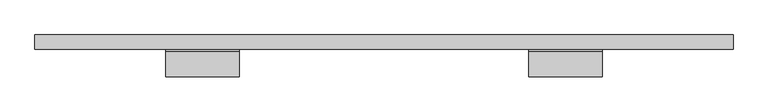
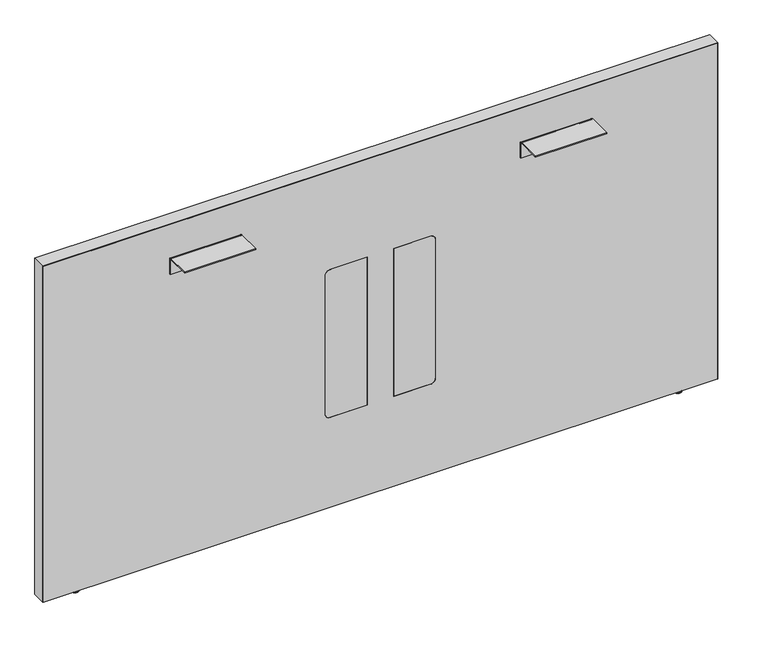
"""IFC4 building model written with IfcOpenShell, lengths in millimetres: furniture geometry, Steelcase - Answer Solution - Boundary Screen - Straight - Spanning : 30H x 57W."""

from ifc_helpers import new_model, si_unit, point, frame, frame_2d, origin, place, context, project, spatial, polyline, circle_curve, ellipse_curve, trimmed, segment, composite_curve, outline, extrude, source, transform, mapped, element, save
from ifc_brep_helpers import plane_surface, cylinder_surface, revolved_surface, advanced_brep


def furniture_8f7ee19b(model_context):
    return source(origin(), model_context, "Body", "SolidModel", [
        advanced_brep(
        [(-416.8902705, -14.8449166, 9.9059849), (-416.8902705, -5.9309607, 9.9059849), (-416.8902705, -23.7588726, 9.9059849), (-416.8902705, -5.9309607, 2.9673238), (-416.8902705, -23.7588726, 2.9673238), (-416.8902705, -6.8982978, 2.9673238), (-416.8902705, -22.7915354, 2.9673238), (-416.8902705, -6.8982978, 1.6569081), (-416.8902705, -22.7915354, 1.6569081), (-416.8902705, -8.5552059, 0.0), (-416.8902705, -21.1346274, 0.0), (-416.8902705, -14.8449166, 0.0)],
        [
            (0, 1),
            (1, 2, circle_curve(frame((-416.8902705, -14.8449166, 9.9059849), z_axis=(0.0, 0.0, 1.0), x_axis=(0.0, 1.0, 0.0)), 8.913956)),
            (2, 0),
            (2, 1, circle_curve(frame((-416.8902705, -14.8449166, 9.9059849), z_axis=(0.0, 0.0, 1.0), x_axis=(0.0, 1.0, 0.0)), 8.913956)),
            (1, 3),
            (3, 4, circle_curve(frame((-416.8902705, -14.8449166, 2.9673238), z_axis=(0.0, 0.0, 1.0), x_axis=(0.0, 1.0, 0.0)), 8.913956)),
            (4, 2),
            (4, 3, circle_curve(frame((-416.8902705, -14.8449166, 2.9673238), z_axis=(0.0, 0.0, 1.0), x_axis=(0.0, 1.0, 0.0)), 8.913956)),
            (3, 5),
            (5, 6, circle_curve(frame((-416.8902705, -14.8449166, 2.9673238), z_axis=(0.0, 0.0, 1.0), x_axis=(0.0, 1.0, 0.0)), 7.9466188)),
            (6, 4),
            (6, 5, circle_curve(frame((-416.8902705, -14.8449166, 2.9673238), z_axis=(0.0, 0.0, 1.0), x_axis=(0.0, 1.0, 0.0)), 7.9466188)),
            (5, 7),
            (7, 8, circle_curve(frame((-416.8902705, -14.8449166, 1.6569081), z_axis=(0.0, 0.0, 1.0), x_axis=(0.0, 1.0, 0.0)), 7.9466188)),
            (8, 6),
            (8, 7, circle_curve(frame((-416.8902705, -14.8449166, 1.6569081), z_axis=(0.0, 0.0, 1.0), x_axis=(0.0, 1.0, 0.0)), 7.9466188)),
            (7, 9, circle_curve(frame((-416.8902705, -8.5552059, 1.6569081), z_axis=(-1.0, 0.0, 0.0), x_axis=(0.0, 1.0, 0.0)), 1.6569081)),
            (9, 10, circle_curve(frame((-416.8902705, -14.8449166, 0.0), z_axis=(0.0, 0.0, 1.0), x_axis=(0.0, 1.0, 0.0)), 6.2897107)),
            (10, 8, circle_curve(frame((-416.8902705, -21.1346274, 1.6569081), z_axis=(-1.0, 0.0, 0.0), x_axis=(0.0, -1.0, 0.0)), 1.6569081)),
            (10, 9, circle_curve(frame((-416.8902705, -14.8449166, 0.0), z_axis=(0.0, 0.0, 1.0), x_axis=(0.0, 1.0, 0.0)), 6.2897107)),
            (9, 11),
            (11, 10),
        ],
        [
            plane_surface(frame((-416.8902705, -14.8449166, 9.9059849), z_axis=(0.0, 0.0, 1.0), x_axis=(0.0, 1.0, 0.0))),
            cylinder_surface(frame((-416.8902705, -14.8449166, 9.9059849), z_axis=(0.0, 0.0, 1.0), x_axis=(0.0, 1.0, 0.0)), 8.913956),
            plane_surface(frame((-416.8902705, -14.8449166, 2.9673238), z_axis=(0.0, 0.0, -1.0), x_axis=(0.0, 1.0, 0.0))),
            cylinder_surface(frame((-416.8902705, -14.8449166, 9.9059849), z_axis=(0.0, 0.0, 1.0), x_axis=(0.0, 1.0, 0.0)), 7.9466188),
            revolved_surface(trimmed(ellipse_curve(frame((-416.8902705, -8.5552059, 1.6569081), z_axis=(1.0, 0.0, 0.0), x_axis=(0.0, 1.0, 0.0)), 1.6569081, 1.6569081), [point((-416.8902705, -8.5552059, 0.0))], [point((-416.8902705, -6.8982978, 1.6569081))], True, "CARTESIAN"), (-416.8902705, -14.8449166, 9.9059849), (0.0, 0.0, 1.0)),
            plane_surface(frame((-416.8902705, -14.8449166, 0.0), z_axis=(0.0, 0.0, -1.0), x_axis=(0.0, 1.0, 0.0))),
        ],
        [
            (0, [[1, 2, 3]]),
            (0, [[-3, 4, -1]]),
            (1, [[-2, 5, 6, 7]]),
            (1, [[-4, -7, 8, -5]]),
            (2, [[-6, 9, 10, 11]]),
            (2, [[-8, -11, 12, -9]]),
            (3, [[-10, 13, 14, 15]]),
            (3, [[-12, -15, 16, -13]]),
            (4, [[-14, 17, 18, 19]]),
            (4, [[-16, -19, 20, -17]]),
            (5, [[-18, 21, 22]]),
            (5, [[-20, -22, -21]]),
        ],
    ),
        extrude(outline(composite_curve([segment(polyline([(-86.8398151, 696.4680019), (-86.8398151, 698.5), (-34.9450855, 698.5)]), True, "CONTINUOUS"), segment(trimmed(circle_curve(frame_2d((-34.9450855, 693.2447477)), 5.2552523), [point((-34.9450855, 698.5))], [point((-29.6898332, 693.2447477))], False, "CARTESIAN"), True, "CONTINUOUS"), segment(polyline([(-29.6898332, 693.2447477), (-29.6898332, 660.4), (-31.7218162, 660.4), (-31.7218162, 693.0058743)]), True, "CONTINUOUS"), segment(trimmed(circle_curve(frame_2d((-35.1839438, 693.0058743)), 3.4621276), [point((-31.7218162, 693.0058743))], [point((-35.1839438, 696.4680019))], True, "CARTESIAN"), True, "CONTINUOUS"), segment(polyline([(-35.1839438, 696.4680019), (-86.8398151, 696.4680019)]), True, "CONTINUOUS")], self_intersect=False)), frame((529.7282189, 0.0, 0.0), z_axis=(1.0, 0.0, 0.0), x_axis=(0.0, 1.0, 0.0)), (0.0, 0.0, 1.0), 152.4000969),
        extrude(outline(composite_curve([segment(polyline([(-86.8398151, 696.4680019), (-86.8398151, 698.5), (-34.9450855, 698.5)]), True, "CONTINUOUS"), segment(trimmed(circle_curve(frame_2d((-34.9450855, 693.2447477)), 5.2552523), [point((-34.9450855, 698.5))], [point((-29.6898332, 693.2447477))], False, "CARTESIAN"), True, "CONTINUOUS"), segment(polyline([(-29.6898332, 693.2447477), (-29.6898332, 660.4), (-31.7218162, 660.4), (-31.7218162, 693.0058743)]), True, "CONTINUOUS"), segment(trimmed(circle_curve(frame_2d((-35.1839438, 693.0058743)), 3.4621276), [point((-31.7218162, 693.0058743))], [point((-35.1839438, 696.4680019))], True, "CARTESIAN"), True, "CONTINUOUS"), segment(polyline([(-35.1839438, 696.4680019), (-86.8398151, 696.4680019)]), True, "CONTINUOUS")], self_intersect=False)), frame((-222.4884581, 0.0, 0.0), z_axis=(1.0, 0.0, 0.0), x_axis=(0.0, 1.0, 0.0)), (0.0, 0.0, 1.0), 152.4000969),
        advanced_brep(
        [(876.5286488, -23.7588726, 9.9059849), (876.5286488, -5.9309607, 9.9059849), (876.5286488, -14.8449166, 9.9059849), (876.5286488, -23.7588726, 2.9673238), (876.5286488, -5.9309607, 2.9673238), (876.5286488, -22.7915354, 2.9673238), (876.5286488, -6.8982978, 2.9673238), (876.5286488, -22.7915354, 1.6569081), (876.5286488, -6.8982978, 1.6569081), (876.5286488, -21.1346274, 0.0), (876.5286488, -8.5552059, 0.0), (876.5286488, -14.8449166, 0.0)],
        [
            (0, 1, circle_curve(frame((876.5286488, -14.8449166, 9.9059849), z_axis=(0.0, 0.0, 1.0), x_axis=(0.0, 1.0, 0.0)), 8.913956)),
            (1, 2),
            (2, 0),
            (1, 0, circle_curve(frame((876.5286488, -14.8449166, 9.9059849), z_axis=(0.0, 0.0, 1.0), x_axis=(0.0, 1.0, 0.0)), 8.913956)),
            (3, 4, circle_curve(frame((876.5286488, -14.8449166, 2.9673238), z_axis=(0.0, 0.0, 1.0), x_axis=(0.0, 1.0, 0.0)), 8.913956)),
            (4, 1),
            (0, 3),
            (4, 3, circle_curve(frame((876.5286488, -14.8449166, 2.9673238), z_axis=(0.0, 0.0, 1.0), x_axis=(0.0, 1.0, 0.0)), 8.913956)),
            (5, 6, circle_curve(frame((876.5286488, -14.8449166, 2.9673238), z_axis=(0.0, 0.0, 1.0), x_axis=(0.0, 1.0, 0.0)), 7.9466188)),
            (6, 4),
            (3, 5),
            (6, 5, circle_curve(frame((876.5286488, -14.8449166, 2.9673238), z_axis=(0.0, 0.0, 1.0), x_axis=(0.0, 1.0, 0.0)), 7.9466188)),
            (7, 8, circle_curve(frame((876.5286488, -14.8449166, 1.6569081), z_axis=(0.0, 0.0, 1.0), x_axis=(0.0, 1.0, 0.0)), 7.9466188)),
            (8, 6),
            (5, 7),
            (8, 7, circle_curve(frame((876.5286488, -14.8449166, 1.6569081), z_axis=(0.0, 0.0, 1.0), x_axis=(0.0, 1.0, 0.0)), 7.9466188)),
            (9, 10, circle_curve(frame((876.5286488, -14.8449166, 0.0), z_axis=(0.0, 0.0, 1.0), x_axis=(0.0, 1.0, 0.0)), 6.2897107)),
            (10, 8, circle_curve(frame((876.5286488, -8.5552059, 1.6569081), z_axis=(1.0, 0.0, 0.0), x_axis=(0.0, 1.0, 0.0)), 1.6569081)),
            (7, 9, circle_curve(frame((876.5286488, -21.1346274, 1.6569081), z_axis=(1.0, 0.0, 0.0), x_axis=(0.0, -1.0, 0.0)), 1.6569081)),
            (10, 9, circle_curve(frame((876.5286488, -14.8449166, 0.0), z_axis=(0.0, 0.0, 1.0), x_axis=(0.0, 1.0, 0.0)), 6.2897107)),
            (11, 10),
            (9, 11),
        ],
        [
            plane_surface(frame((876.5286488, -14.8449166, 9.9059849), z_axis=(0.0, 0.0, 1.0), x_axis=(0.0, 1.0, 0.0))),
            cylinder_surface(frame((876.5286488, -14.8449166, 9.9059849), z_axis=(0.0, 0.0, -1.0), x_axis=(0.0, 1.0, 0.0)), 8.913956),
            plane_surface(frame((876.5286488, -14.8449166, 2.9673238), z_axis=(0.0, 0.0, -1.0), x_axis=(0.0, 1.0, 0.0))),
            cylinder_surface(frame((876.5286488, -14.8449166, 9.9059849), z_axis=(0.0, 0.0, -1.0), x_axis=(0.0, 1.0, 0.0)), 7.9466188),
            revolved_surface(trimmed(ellipse_curve(frame((876.5286488, -8.5552059, 1.6569081), z_axis=(-1.0, 0.0, 0.0), x_axis=(0.0, 1.0, 0.0)), 1.6569081, 1.6569081), [point((876.5286488, -6.8982978, 1.6569081))], [point((876.5286488, -8.5552059, 0.0))], True, "CARTESIAN"), (876.5286488, -14.8449166, 9.9059849), (0.0, 0.0, -1.0)),
            plane_surface(frame((876.5286488, -14.8449166, 0.0), z_axis=(0.0, 0.0, -1.0), x_axis=(0.0, 1.0, 0.0))),
        ],
        [
            (0, [[1, 2, 3]]),
            (0, [[4, -3, -2]]),
            (1, [[5, 6, -1, 7]]),
            (1, [[8, -7, -4, -6]]),
            (2, [[9, 10, -5, 11]]),
            (2, [[12, -11, -8, -10]]),
            (3, [[13, 14, -9, 15]]),
            (3, [[16, -15, -12, -14]]),
            (4, [[17, 18, -13, 19]]),
            (4, [[20, -19, -16, -18]]),
            (5, [[21, -17, 22]]),
            (5, [[-22, -20, -21]]),
        ],
    ),
        advanced_brep(
        [(952.6780168, 0.0, 771.942118), (952.6780168, 0.0, 9.9059849), (-493.0902221, 0.0, 9.9059849), (-493.0902221, 0.0, 771.942118), (952.6780168, -29.6898332, 771.942118), (-493.0902221, -29.6898332, 771.942118), (-493.0902221, -29.6898332, 9.9059849), (952.6780168, -29.6898332, 9.9059849), (337.7883813, -29.6898332, 549.6162029), (347.9483813, -29.6898332, 539.4562029), (347.9483813, -29.6898332, 223.9362137), (337.7883813, -29.6898332, 213.7762137), (258.1344836, -29.6898332, 213.7762137), (258.1344836, -29.6898332, 549.6162029), (121.849997, -29.6898332, 549.6162029), (201.5038947, -29.6898332, 549.6162029), (201.5038947, -29.6898332, 213.7762137), (121.849997, -29.6898332, 213.7762137), (111.689997, -29.6898332, 223.9362137), (111.689997, -29.6898332, 539.4562029), (258.1344836, -29.0550397, 549.6162029), (337.7883813, -29.0550397, 549.6162029), (258.1344836, -29.0550397, 213.7762137), (337.7883813, -29.0550397, 213.7762137), (347.9483813, -29.0550397, 223.9362137), (347.9483813, -29.0550397, 539.4562029), (121.849997, -29.0550397, 549.6162029), (111.689997, -29.0550397, 539.4562029), (111.689997, -29.0550397, 223.9362137), (121.849997, -29.0550397, 213.7762137), (201.5038947, -29.0550397, 213.7762137), (201.5038947, -29.0550397, 549.6162029)],
        [
            (0, 1),
            (1, 2),
            (2, 3),
            (3, 0),
            (4, 5),
            (5, 6),
            (6, 7),
            (7, 4),
            (8, 9, circle_curve(frame((337.7883813, -29.6898332, 539.4562029), z_axis=(0.0, 1.0, 0.0), x_axis=(0.0, 0.0, 1.0)), 10.16)),
            (9, 10),
            (10, 11, circle_curve(frame((337.7883813, -29.6898332, 223.9362137), z_axis=(0.0, 1.0, 0.0), x_axis=(0.0, 0.0, 1.0)), 10.16)),
            (11, 12),
            (12, 13),
            (13, 8),
            (14, 15),
            (15, 16),
            (16, 17),
            (17, 18, circle_curve(frame((121.849997, -29.6898332, 223.9362137), z_axis=(0.0, 1.0, 0.0), x_axis=(0.0, 0.0, 1.0)), 10.16)),
            (18, 19),
            (19, 14, circle_curve(frame((121.849997, -29.6898332, 539.4562029), z_axis=(0.0, 1.0, 0.0), x_axis=(0.0, 0.0, 1.0)), 10.16)),
            (0, 4),
            (7, 1),
            (6, 2),
            (5, 3),
            (13, 20),
            (20, 21),
            (21, 8),
            (12, 22),
            (22, 20),
            (11, 23),
            (23, 22),
            (10, 24),
            (24, 23, circle_curve(frame((337.7883813, -29.0550397, 223.9362137), z_axis=(0.0, 1.0, 0.0), x_axis=(0.0, 0.0, 1.0)), 10.16)),
            (9, 25),
            (25, 24),
            (21, 25, circle_curve(frame((337.7883813, -29.0550397, 539.4562029), z_axis=(0.0, 1.0, 0.0), x_axis=(0.0, 0.0, 1.0)), 10.16)),
            (26, 27, circle_curve(frame((121.849997, -29.0550397, 539.4562029), z_axis=(0.0, -1.0, 0.0), x_axis=(0.0, 0.0, 1.0)), 10.16)),
            (27, 28),
            (28, 29, circle_curve(frame((121.849997, -29.0550397, 223.9362137), z_axis=(0.0, -1.0, 0.0), x_axis=(0.0, 0.0, 1.0)), 10.16)),
            (29, 30),
            (30, 31),
            (31, 26),
            (19, 27),
            (26, 14),
            (18, 28),
            (17, 29),
            (16, 30),
            (15, 31),
        ],
        [
            plane_surface(frame((952.6780168, 0.0, 771.942118), z_axis=(0.0, 1.0, 0.0), x_axis=(0.0, 0.0, -1.0))),
            plane_surface(frame((952.6780168, -29.6898332, 771.942118), z_axis=(0.0, -1.0, 0.0), x_axis=(0.0, 0.0, 1.0))),
            plane_surface(frame((952.6780168, 0.0, 771.942118), z_axis=(1.0, 0.0, 0.0), x_axis=(0.0, -1.0, 0.0))),
            plane_surface(frame((952.6780168, 0.0, 9.9059849), z_axis=(0.0, 0.0, -1.0), x_axis=(0.0, -1.0, 0.0))),
            plane_surface(frame((-493.0902221, 0.0, 9.9059849), z_axis=(-1.0, 0.0, 0.0), x_axis=(0.0, -1.0, 0.0))),
            plane_surface(frame((-493.0902221, 0.0, 771.942118), z_axis=(0.0, 0.0, 1.0), x_axis=(0.0, -1.0, 0.0))),
            plane_surface(frame((337.7883813, 0.0, 549.6162029), z_axis=(0.0, 0.0, -1.0), x_axis=(0.0, -1.0, 0.0))),
            plane_surface(frame((258.1344836, 0.0, 549.6162029), z_axis=(1.0, 0.0, 0.0), x_axis=(0.0, -1.0, 0.0))),
            plane_surface(frame((258.1344836, 0.0, 213.7762137), z_axis=(0.0, 0.0, 1.0), x_axis=(0.0, -1.0, 0.0))),
            revolved_surface(polyline([(337.7883813, -29.6898332, 234.0962137), (337.7883813, -29.0550397, 234.0962137)]), (337.7883813, -29.6898332, 223.9362137), (0.0, -1.0, 0.0)),
            plane_surface(frame((347.9483813, 0.0, 223.9362137), z_axis=(-1.0, 0.0, 0.0), x_axis=(0.0, -1.0, 0.0))),
            revolved_surface(polyline([(337.7883813, -29.6898332, 549.6162029), (337.7883813, -29.0550397, 549.6162029)]), (337.7883813, -29.6898332, 539.4562029), (0.0, -1.0, 0.0)),
            plane_surface(frame((347.9483813, -29.0550397, 549.6162029), z_axis=(0.0, -1.0, 0.0), x_axis=(0.0, 0.0, 1.0))),
            revolved_surface(polyline([(121.849997, -29.6898332, 549.6162029), (121.849997, -29.0550397, 549.6162029)]), (121.849997, -29.6898332, 539.4562029), (0.0, -1.0, 0.0)),
            plane_surface(frame((111.689997, 0.0, 539.4562029), z_axis=(1.0, 0.0, 0.0), x_axis=(0.0, -1.0, 0.0))),
            revolved_surface(polyline([(121.849997, -29.6898332, 234.0962137), (121.849997, -29.0550397, 234.0962137)]), (121.849997, -29.6898332, 223.9362137), (0.0, -1.0, 0.0)),
            plane_surface(frame((121.849997, 0.0, 213.7762137), z_axis=(0.0, 0.0, 1.0), x_axis=(0.0, -1.0, 0.0))),
            plane_surface(frame((201.5038947, 0.0, 213.7762137), z_axis=(-1.0, 0.0, 0.0), x_axis=(0.0, -1.0, 0.0))),
            plane_surface(frame((201.5038947, 0.0, 549.6162029), z_axis=(0.0, 0.0, -1.0), x_axis=(0.0, -1.0, 0.0))),
        ],
        [
            (0, [[1, 2, 3, 4]]),
            (1, [[5, 6, 7, 8], [9, 10, 11, 12, 13, 14], [15, 16, 17, 18, 19, 20]]),
            (2, [[-1, 21, -8, 22]]),
            (3, [[-2, -22, -7, 23]]),
            (4, [[-3, -23, -6, 24]]),
            (5, [[-4, -24, -5, -21]]),
            (6, [[-14, 25, 26, 27]]),
            (7, [[-13, 28, 29, -25]]),
            (8, [[-12, 30, 31, -28]]),
            (9, [[-11, 32, 33, -30]]),
            (10, [[-10, 34, 35, -32]]),
            (11, [[-9, -27, 36, -34]]),
            (12, [[-26, -29, -31, -33, -35, -36]]),
            (12, [[37, 38, 39, 40, 41, 42]]),
            (13, [[-20, 43, -37, 44]]),
            (14, [[-19, 45, -38, -43]]),
            (15, [[-18, 46, -39, -45]]),
            (16, [[-17, 47, -40, -46]]),
            (17, [[-16, 48, -41, -47]]),
            (18, [[-15, -44, -42, -48]]),
        ],
    ),
        extrude(outline(composite_curve([segment(polyline([(549.6162029, 337.7883813), (549.6162029, 258.1344836), (213.7762137, 258.1344836), (213.7762137, 337.7883813)]), True, "CONTINUOUS"), segment(trimmed(circle_curve(frame_2d((223.9362137, 337.7883813)), 10.16), [point((213.7762137, 337.7883813))], [point((223.9362137, 347.9483813))], False, "CARTESIAN"), True, "CONTINUOUS"), segment(polyline([(223.9362137, 347.9483813), (539.4562029, 347.9483813)]), True, "CONTINUOUS"), segment(trimmed(circle_curve(frame_2d((539.4562029, 337.7883813)), 10.16), [point((539.4562029, 347.9483813))], [point((549.6162029, 337.7883813))], False, "CARTESIAN"), True, "CONTINUOUS")], self_intersect=False)), frame((0.0, -29.6898332, 0.0), z_axis=(0.0, 1.0, 0.0), x_axis=(0.0, 0.0, 1.0)), (0.0, 0.0, 1.0), 0.6347935),
        extrude(outline(composite_curve([segment(trimmed(circle_curve(frame_2d((539.4562029, 121.849997)), 10.16), [point((549.6162029, 121.849997))], [point((539.4562029, 111.689997))], False, "CARTESIAN"), True, "CONTINUOUS"), segment(polyline([(539.4562029, 111.689997), (223.9362137, 111.689997)]), True, "CONTINUOUS"), segment(trimmed(circle_curve(frame_2d((223.9362137, 121.849997)), 10.16), [point((223.9362137, 111.689997))], [point((213.7762137, 121.849997))], False, "CARTESIAN"), True, "CONTINUOUS"), segment(polyline([(213.7762137, 121.849997), (213.7762137, 201.5038947), (549.6162029, 201.5038947), (549.6162029, 121.849997)]), True, "CONTINUOUS")], self_intersect=False)), frame((0.0, -29.6898332, 0.0), z_axis=(0.0, 1.0, 0.0), x_axis=(0.0, 0.0, 1.0)), (0.0, 0.0, 1.0), 0.6347935),
        extrude(outline(polyline([(772.922, 953.7191891), (772.922, -494.0808109), (9.9059849, -494.0808109), (9.9059849, -493.0902221), (771.942118, -493.0902221), (771.942118, 952.6780168), (9.9059849, 952.6780168), (9.9059849, 953.7191891), (772.922, 953.7191891)])), frame((0.0, -29.6898332, 0.0), z_axis=(0.0, 1.0, 0.0), x_axis=(0.0, 0.0, 1.0)), (0.0, 0.0, 1.0), 29.6898332),
    ])


if __name__ == "__main__":
    model = new_model("IFC4")
    model_context = context("Model", 3, world=origin())
    ifc_project = project(units=[si_unit("LENGTHUNIT", "METRE", prefix="MILLI")], contexts=[model_context])
    site = spatial("IfcSite", under=ifc_project)
    building = spatial("IfcBuilding", under=site)
    placement = place(None, origin())
    furniture_shape = furniture_8f7ee19b(model_context)
    element("IfcFurniture", 1, ObjectType="Steelcase - Answer Solution - Boundary Screen - Straight - Spanning : 30H x 57W", at=placement, inside=building, context=model_context, shape_type="MappedRepresentation", body=[
        mapped(furniture_shape, transform((0.0, 0.0, 0.0), x_axis=(1.0, 0.0, 0.0), y_axis=(0.0, 1.0, 0.0), z_axis=(0.0, 0.0, 1.0))),
    ])
    save(model, "model.ifc")
